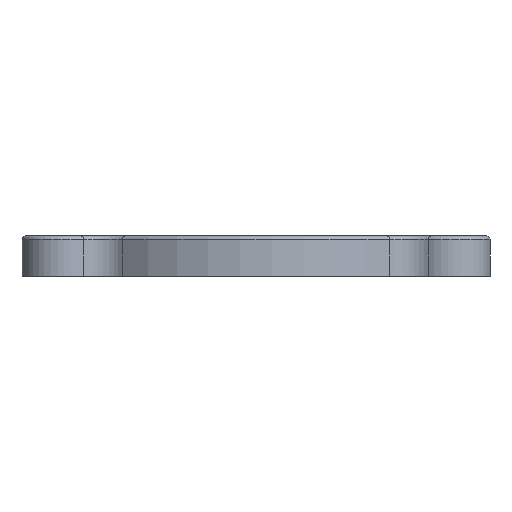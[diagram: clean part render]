
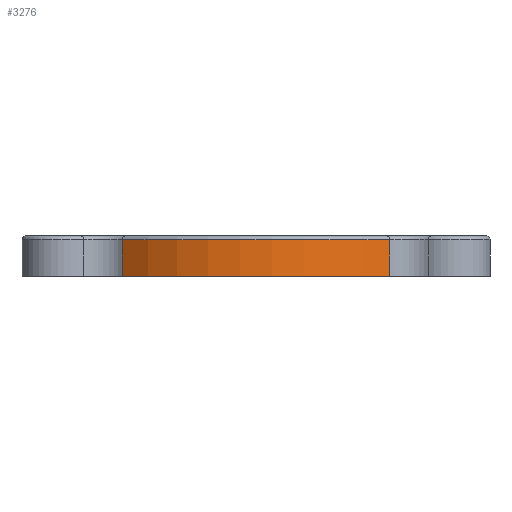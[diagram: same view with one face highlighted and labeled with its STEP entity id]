
A CAD part, front view. The second image highlights one B-rep face of the part: STEP entity #3276.
In plain terms, the highlighted cylindrical face has radius 12.5 mm (diameter 25 mm), a partial arc.
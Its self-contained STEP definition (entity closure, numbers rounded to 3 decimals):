
#56=CIRCLE('',#182,12.5);
#110=CIRCLE('',#254,12.5);
#123=CYLINDRICAL_SURFACE('',#260,12.5);
#182=AXIS2_PLACEMENT_3D('',#4707,#892,#893);
#254=AXIS2_PLACEMENT_3D('',#4836,#1032,#1033);
#260=AXIS2_PLACEMENT_3D('',#4843,#1042,#1043);
#484=VECTOR('',#1044,1.);
#485=VECTOR('',#1045,1.);
#664=LINE('',#4844,#484);
#665=LINE('',#4845,#485);
#892=DIRECTION('',(0.,0.,1.));
#893=DIRECTION('',(12.5,0.,0.));
#1032=DIRECTION('',(0.,0.,1.));
#1033=DIRECTION('',(0.,-12.5,0.));
#1042=DIRECTION('',(0.,0.,1.));
#1043=DIRECTION('',(12.5,0.,0.));
#1044=DIRECTION('',(0.,0.,1.));
#1045=DIRECTION('',(0.,0.,-1.));
#1317=VERTEX_POINT('',#4715);
#1318=VERTEX_POINT('',#4716);
#1358=VERTEX_POINT('',#4827);
#1360=VERTEX_POINT('',#4835);
#1865=EDGE_CURVE('',#1318,#1317,#56,.T.);
#1926=EDGE_CURVE('',#1358,#1360,#110,.T.);
#1930=EDGE_CURVE('',#1318,#1358,#664,.T.);
#1931=EDGE_CURVE('',#1360,#1317,#665,.T.);
#2718=ORIENTED_EDGE('',*,*,#1926,.F.);
#2719=ORIENTED_EDGE('',*,*,#1930,.F.);
#2720=ORIENTED_EDGE('',*,*,#1865,.T.);
#2721=ORIENTED_EDGE('',*,*,#1931,.F.);
#2934=EDGE_LOOP('',(#2718,#2719,#2720,#2721));
#3114=FACE_BOUND('',#2934,.T.);
#3276=ADVANCED_FACE('',(#3114),#123,.T.);
#4707=CARTESIAN_POINT('',(0.,0.,0.));
#4715=CARTESIAN_POINT('',(8.355,-9.298,0.));
#4716=CARTESIAN_POINT('',(-8.355,-9.298,0.));
#4827=CARTESIAN_POINT('',(-8.355,-9.298,2.25));
#4835=CARTESIAN_POINT('',(8.355,-9.298,2.25));
#4836=CARTESIAN_POINT('',(0.,0.,2.25));
#4843=CARTESIAN_POINT('',(0.,0.,0.));
#4844=CARTESIAN_POINT('',(-8.355,-9.298,0.));
#4845=CARTESIAN_POINT('',(8.355,-9.298,0.));
